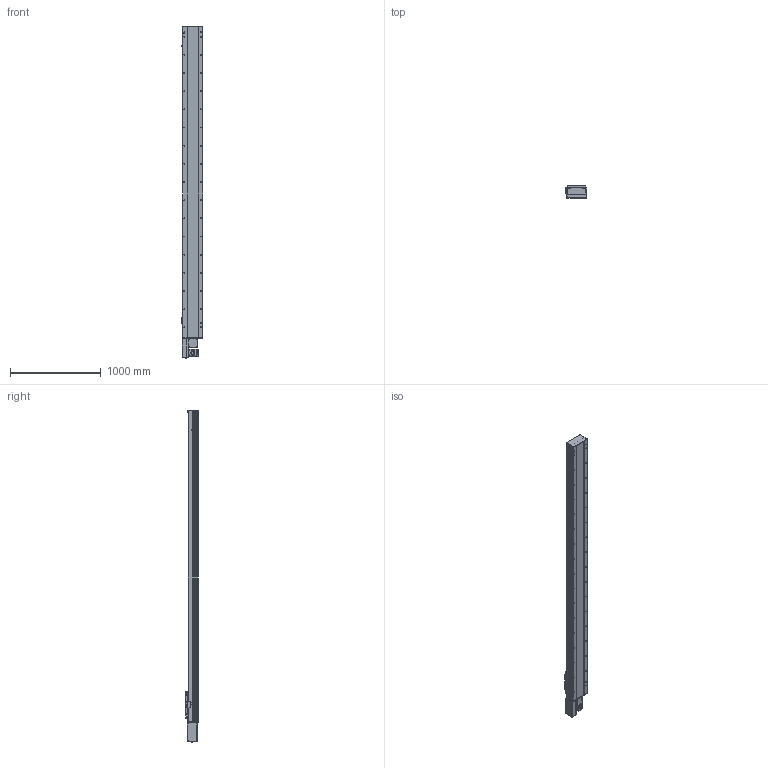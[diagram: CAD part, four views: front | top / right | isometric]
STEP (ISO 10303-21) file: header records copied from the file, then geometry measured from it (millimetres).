
FILE_DESCRIPTION (( 'STEP AP214' ), '1' );
FILE_NAME ('TPE22-L40-3000-R-T75-C4.STEP', '2023-04-13T01:09:52', ( '' ), ( '' ), 'SwSTEP 2.0', 'SolidWorks 2020', '' );
FILE_SCHEMA (( 'AUTOMOTIVE_DESIGN' ));
Length unit declared in the file: millimetre
Products named in the file (10): 葩璃 TPE22-L-002 耜裔ZTMZ-220-04^TPE22-L40-R-T75-C4; hexagon head bolts-full thread gb_GB_FASTENER_BOLT_STBAB A M5X16-N; 葩璃 TPT22-L-009 萇儂啣^TPE22-L40-R-T75-C4; 葩璃 TPE22-L-001 菁釱MZ-220-01^TPE22-L40-R-T75-C4; 葩璃 TPE22 賑雄殤^TPE22-L40-R-T75-C4; 葩璃 MSMD08PC_P75^TPE22-L40-R-T75-C4; TPE22-L40-3000-R-T75-C4; 葩璃 TPE22-L-007 々湍釱^TPE22-L40-R-T75-C4; 葩璃 詩湍150^TPE22-L40-R-T75-C4; 葩璃 pm-t65-672^TPE22-L40-R-T75-C4
Assembly tree (12 placements, depth 2):
  TPE22-L40-3000-R-T75-C4
    葩璃 TPE22-L-001 菁釱MZ-220-01^TPE22-L40-R-T75-C4
    葩璃 TPE22-L-002 耜裔ZTMZ-220-04^TPE22-L40-R-T75-C4  x2
    葩璃 詩湍150^TPE22-L40-R-T75-C4
    葩璃 TPE22-L-007 々湍釱^TPE22-L40-R-T75-C4
    葩璃 TPT22-L-009 萇儂啣^TPE22-L40-R-T75-C4
    葩璃 TPE22 賑雄殤^TPE22-L40-R-T75-C4
    葩璃 pm-t65-672^TPE22-L40-R-T75-C4  x3
    葩璃 MSMD08PC_P75^TPE22-L40-R-T75-C4
    hexagon head bolts-full thread gb_GB_FASTENER_BOLT_STBAB A M5X16-N
Bounding box: 233.7 x 138 x 3655.65 mm (x, y, z)
Volume: 38962622.4 mm3; surface area: 5422390.2 mm2
Topology: 22 solids, 22 shells, 1829 faces, 4799 edges, 3035 vertices
Faces by surface type: plane 1039, cylinder 612, cone 148, bspline 30
Entity records: 51926 total; most frequent: CARTESIAN_POINT 10577, DIRECTION 8170, ORIENTED_EDGE 8006, EDGE_CURVE 4003, AXIS2_PLACEMENT_3D 2733, LINE 2704, VECTOR 2704, VERTEX_POINT 2579
